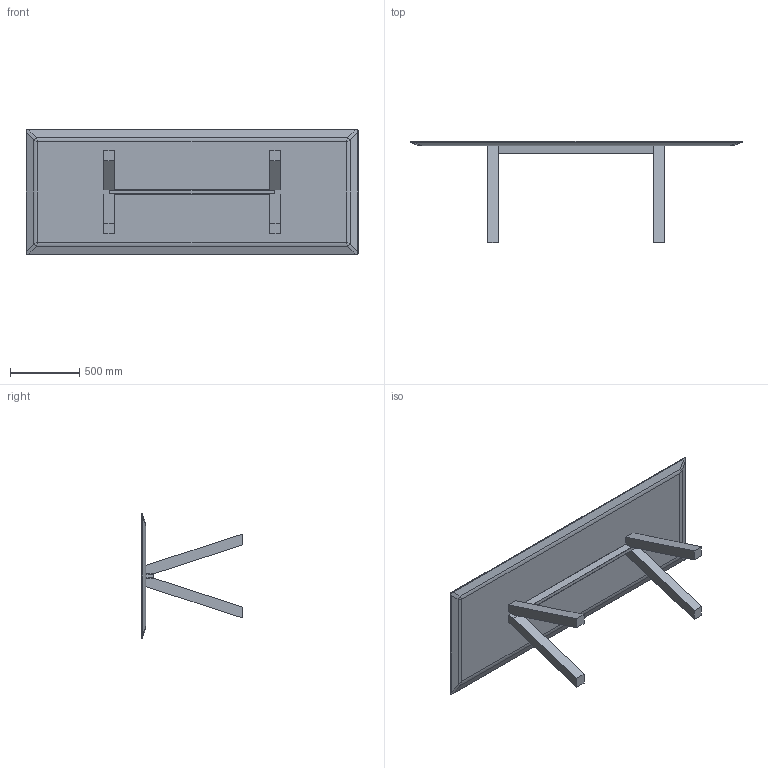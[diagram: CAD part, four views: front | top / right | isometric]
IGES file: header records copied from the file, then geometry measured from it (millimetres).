
Start section: SolidWorks IGES file using NURBS representation for surfaces
Global section: file name: W:\01-VICCARBE\PRODUCTOS\45-TRESTLE\04-MODELADOS (PLANOS)\WEB\table\3D\IGES\viccarbe_trestle_table_simple.IGS; native system: SolidWorks 2013; preprocessor: SolidWorks 2013; author: Usuario; date: 140918.102349; units: millimetre
Bounding box: 2400 x 729 x 900 mm (x, y, z)
Surface area: 5711208 mm2 (no closed solid volume)
Topology: 0 solids, 0 shells, 90 faces, 388 edges, 384 vertices
Faces by surface type: bspline 90
